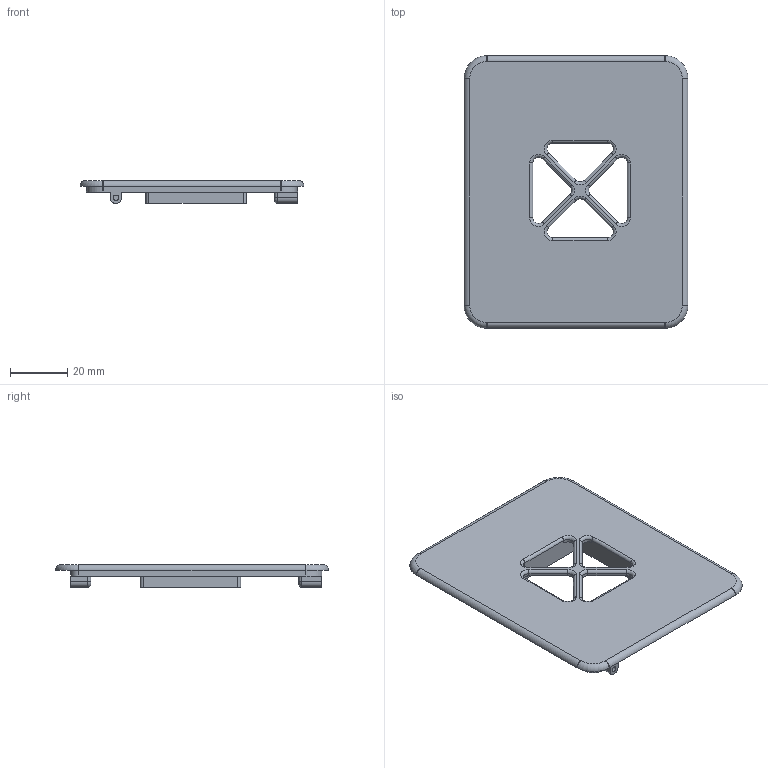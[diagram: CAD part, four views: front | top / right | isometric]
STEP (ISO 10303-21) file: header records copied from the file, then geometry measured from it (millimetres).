
FILE_DESCRIPTION(/* description */ (''),/* implementation_level */ '2;1');
FILE_NAME(/* name */ 'computer case lid v19.step',/* time_stamp */ '2025-07-16T17:34:40+08:00',/* author */ (''),/* organization */ (''),/* preprocessor_version */ 'ST-DEVELOPER v20.1',/* originating_system */ 'Autodesk Translation Framework v14.10.0.0',/* authorisation */ '');
FILE_SCHEMA (('AUTOMOTIVE_DESIGN { 1 0 10303 214 3 1 1 }'));
Length unit declared in the file: millimetre
Products named in the file (1): computer case lid
Bounding box: 78 x 95 x 8 mm (x, y, z)
Volume: 15240.9 mm3; surface area: 17017.7 mm2
Topology: 1 solids, 1 shells, 166 faces, 454 edges, 286 vertices
Faces by surface type: cylinder 82, plane 45, torus 32, bspline 7
Full cylindrical faces by diameter (mm): 1.9 x3
Entity records: 5563 total; most frequent: CARTESIAN_POINT 1164, DIRECTION 989, ORIENTED_EDGE 900, EDGE_CURVE 450, AXIS2_PLACEMENT_3D 387, VERTEX_POINT 286, CIRCLE 219, LINE 215
